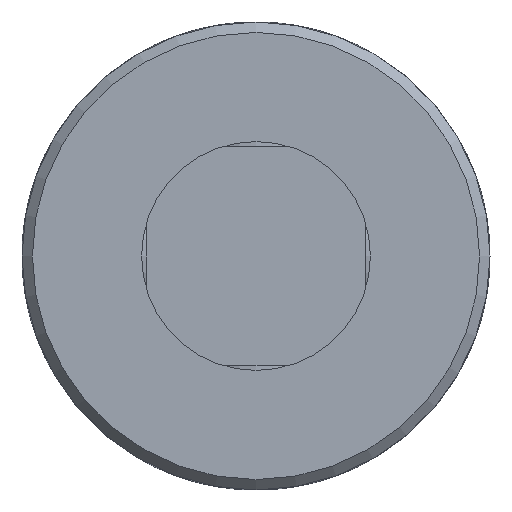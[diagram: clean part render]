
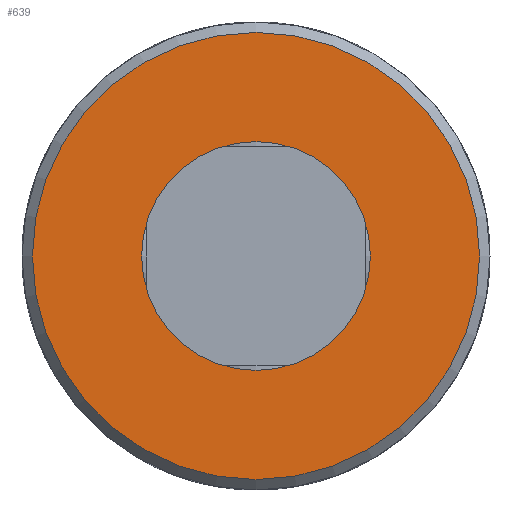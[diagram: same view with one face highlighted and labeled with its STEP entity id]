
A CAD part, front view. The second image highlights one B-rep face of the part: STEP entity #639.
In plain terms, the highlighted planar face has unit normal (0, -1, 0).
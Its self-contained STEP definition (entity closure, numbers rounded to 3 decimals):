
#123=PLANE('',#698);
#149=FACE_BOUND('',#233,.T.);
#176=FACE_OUTER_BOUND('',#232,.T.);
#232=EDGE_LOOP('',(#506));
#233=EDGE_LOOP('',(#507));
#277=CIRCLE('',#693,11.);
#279=CIRCLE('',#696,21.5);
#316=VERTEX_POINT('',#986);
#318=VERTEX_POINT('',#991);
#384=EDGE_CURVE('',#316,#316,#277,.T.);
#386=EDGE_CURVE('',#318,#318,#279,.T.);
#506=ORIENTED_EDGE('',*,*,#386,.F.);
#507=ORIENTED_EDGE('',*,*,#384,.T.);
#639=ADVANCED_FACE('',(#176,#149),#123,.F.);
#693=AXIS2_PLACEMENT_3D('',#987,#811,#812);
#696=AXIS2_PLACEMENT_3D('',#992,#817,#818);
#698=AXIS2_PLACEMENT_3D('',#1176,#825,#826);
#811=DIRECTION('center_axis',(0.,1.,0.));
#812=DIRECTION('ref_axis',(-1.,0.,0.));
#817=DIRECTION('center_axis',(0.,1.,0.));
#818=DIRECTION('ref_axis',(1.,0.,0.));
#825=DIRECTION('center_axis',(0.,1.,0.));
#826=DIRECTION('ref_axis',(0.,0.,1.));
#986=CARTESIAN_POINT('',(11.,-58.,0.));
#987=CARTESIAN_POINT('Origin',(0.,-58.,0.));
#991=CARTESIAN_POINT('',(-21.5,-58.,0.));
#992=CARTESIAN_POINT('Origin',(0.,-58.,0.));
#1176=CARTESIAN_POINT('Origin',(0.,-58.,0.));
